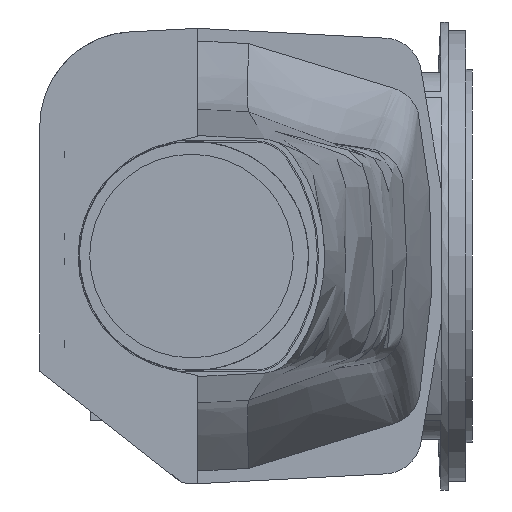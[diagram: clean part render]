
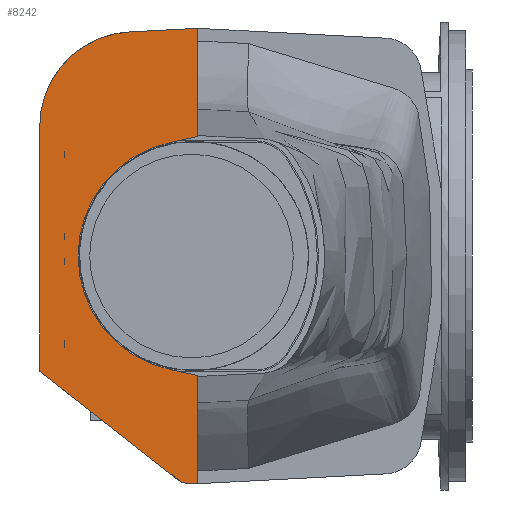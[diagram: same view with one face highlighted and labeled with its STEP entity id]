
A CAD part, left-side view. The second image highlights one B-rep face of the part: STEP entity #8242.
In plain terms, the highlighted planar face has unit normal (-1, 0, 0).
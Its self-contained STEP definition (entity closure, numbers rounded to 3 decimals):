
#66 = CARTESIAN_POINT ( 'NONE',  ( -602.291, 88.002, 0.062 ) ) ;
#92 = VECTOR ( 'NONE', #7464, 1000. ) ;
#154 = LINE ( 'NONE', #9690, #92 ) ;
#300 = DIRECTION ( 'NONE',  ( 0., -0.999, -0.052 ) ) ;
#345 = CARTESIAN_POINT ( 'NONE',  ( -602.291, 100.481, -179.284 ) ) ;
#361 = CARTESIAN_POINT ( 'NONE',  ( -602.291, 213.002, -90.896 ) ) ;
#572 = LINE ( 'NONE', #66, #581 ) ;
#581 = VECTOR ( 'NONE', #949, 1000. ) ;
#606 = CARTESIAN_POINT ( 'NONE',  ( -602.291, 88.002, -169.938 ) ) ;
#657 = CARTESIAN_POINT ( 'NONE',  ( -602.291, 88.002, -179.938 ) ) ;
#949 = DIRECTION ( 'NONE',  ( 0., 0., -1. ) ) ;
#997 = VERTEX_POINT ( 'NONE', #345 ) ;
#1020 = VERTEX_POINT ( 'NONE', #361 ) ;
#1874 = CARTESIAN_POINT ( 'NONE',  ( -602.291, -28.143, -280.322 ) ) ;
#1893 = DIRECTION ( 'NONE',  ( 0., -0.786, -0.618 ) ) ;
#1971 = PLANE ( 'NONE',  #8281 ) ;
#2008 = VECTOR ( 'NONE', #5105, 1000. ) ;
#2041 = LINE ( 'NONE', #10399, #2008 ) ;
#2059 = CARTESIAN_POINT ( 'NONE',  ( -602.291, 88.002, -179.938 ) ) ;
#2688 = EDGE_CURVE ( 'NONE', #3886, #4818, #154, .T. ) ;
#2752 = EDGE_CURVE ( 'NONE', #4818, #4395, #11314, .T. ) ;
#2772 = FACE_OUTER_BOUND ( 'NONE', #7910, .T. ) ;
#2800 = DIRECTION ( 'NONE',  ( 0., 0., -1. ) ) ;
#2919 = VECTOR ( 'NONE', #5269, 1000. ) ;
#2939 = LINE ( 'NONE', #6996, #2919 ) ;
#2979 = DIRECTION ( 'NONE',  ( 0., 0., 1. ) ) ;
#3598 = CARTESIAN_POINT ( 'NONE',  ( -602.291, 138.002, 102.339 ) ) ;
#3717 = EDGE_CURVE ( 'NONE', #1020, #997, #10148, .T. ) ;
#3844 = EDGE_CURVE ( 'NONE', #997, #7696, #9911, .T. ) ;
#3886 = VERTEX_POINT ( 'NONE', #9865 ) ;
#4395 = VERTEX_POINT ( 'NONE', #7319 ) ;
#4491 = CARTESIAN_POINT ( 'NONE',  ( -602.291, 88.002, 170.062 ) ) ;
#4762 = EDGE_CURVE ( 'NONE', #7696, #9651, #8102, .T. ) ;
#4772 = CARTESIAN_POINT ( 'NONE',  ( -602.291, 141.927, 177.236 ) ) ;
#4818 = VERTEX_POINT ( 'NONE', #4772 ) ;
#5105 = DIRECTION ( 'NONE',  ( 0., 0., 1. ) ) ;
#5269 = DIRECTION ( 'NONE',  ( 0., 0., 1. ) ) ;
#5525 = AXIS2_PLACEMENT_3D ( 'NONE', #3598, #9023, #9057 ) ;
#6016 = ORIENTED_EDGE ( 'NONE', *, *, #2688, .T. ) ;
#6036 = ORIENTED_EDGE ( 'NONE', *, *, #2752, .T. ) ;
#6095 = ORIENTED_EDGE ( 'NONE', *, *, #8841, .F. ) ;
#6187 = ORIENTED_EDGE ( 'NONE', *, *, #3717, .T. ) ;
#6218 = ORIENTED_EDGE ( 'NONE', *, *, #3844, .T. ) ;
#6244 = ORIENTED_EDGE ( 'NONE', *, *, #4762, .T. ) ;
#6272 = ORIENTED_EDGE ( 'NONE', *, *, #9936, .F. ) ;
#6364 = ORIENTED_EDGE ( 'NONE', *, *, #8101, .T. ) ;
#6996 = CARTESIAN_POINT ( 'NONE',  ( -602.291, 88.002, -179.938 ) ) ;
#7319 = CARTESIAN_POINT ( 'NONE',  ( -602.291, 213.002, 102.339 ) ) ;
#7464 = DIRECTION ( 'NONE',  ( 0., 0.999, -0.052 ) ) ;
#7696 = VERTEX_POINT ( 'NONE', #2059 ) ;
#7910 = EDGE_LOOP ( 'NONE', ( #6016, #6036, #6095, #6187, #6218, #6244, #6272, #6364 ) ) ;
#8038 = DIRECTION ( 'NONE',  ( 1., 0., 0. ) ) ;
#8082 = VECTOR ( 'NONE', #2979, 1000. ) ;
#8101 = EDGE_CURVE ( 'NONE', #8211, #3886, #2939, .T. ) ;
#8102 = LINE ( 'NONE', #8228, #8082 ) ;
#8211 = VERTEX_POINT ( 'NONE', #4491 ) ;
#8228 = CARTESIAN_POINT ( 'NONE',  ( -602.291, 88.002, -179.938 ) ) ;
#8242 = ADVANCED_FACE ( 'NONE', ( #2772 ), #1971, .F. ) ;
#8281 = AXIS2_PLACEMENT_3D ( 'NONE', #9761, #8038, #2800 ) ;
#8841 = EDGE_CURVE ( 'NONE', #1020, #4395, #2041, .T. ) ;
#9023 = DIRECTION ( 'NONE',  ( -1., 0., 0. ) ) ;
#9057 = DIRECTION ( 'NONE',  ( 0., 0., -1. ) ) ;
#9651 = VERTEX_POINT ( 'NONE', #606 ) ;
#9690 = CARTESIAN_POINT ( 'NONE',  ( -602.291, 213.002, 173.511 ) ) ;
#9761 = CARTESIAN_POINT ( 'NONE',  ( -602.291, -106.998, -179.938 ) ) ;
#9865 = CARTESIAN_POINT ( 'NONE',  ( -602.291, 88.002, 180.062 ) ) ;
#9887 = VECTOR ( 'NONE', #300, 1000. ) ;
#9911 = LINE ( 'NONE', #657, #9887 ) ;
#9936 = EDGE_CURVE ( 'NONE', #8211, #9651, #572, .T. ) ;
#10081 = VECTOR ( 'NONE', #1893, 1000. ) ;
#10148 = LINE ( 'NONE', #1874, #10081 ) ;
#10399 = CARTESIAN_POINT ( 'NONE',  ( -602.291, 213.002, 180.062 ) ) ;
#11314 = CIRCLE ( 'NONE', #5525, 75. ) ;
